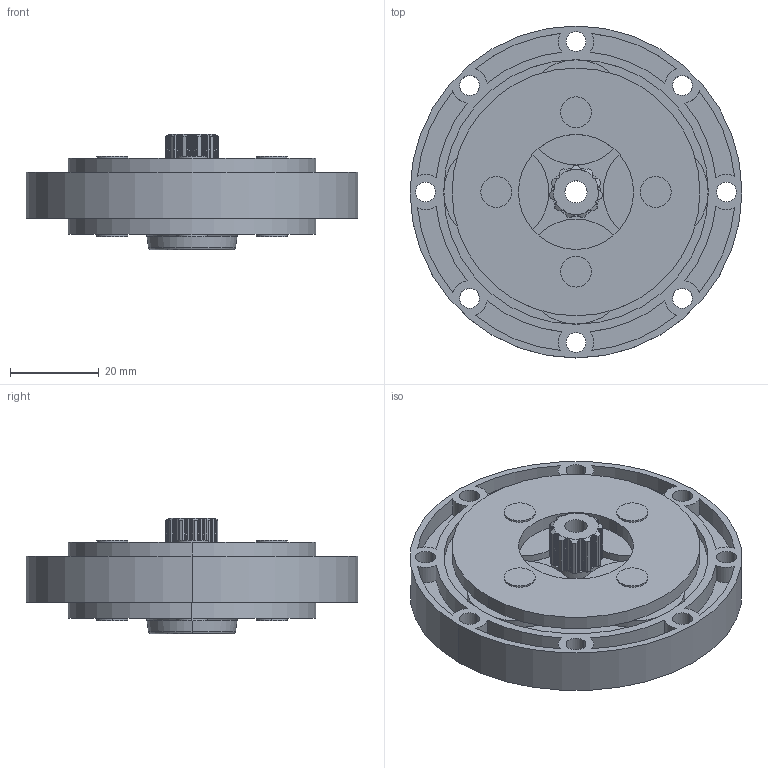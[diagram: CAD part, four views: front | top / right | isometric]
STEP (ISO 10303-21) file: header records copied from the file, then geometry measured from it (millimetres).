
FILE_DESCRIPTION (( 'STEP AP203' ), '1' );
FILE_NAME ('LGU75-5PLD.step', '2021-07-23T02:26:28', ( '' ), ( '' ), 'SwSTEP 2.0', 'SolidWorks 2021', '' );
FILE_SCHEMA (( 'CONFIG_CONTROL_DESIGN' ));
Length unit declared in the file: millimetre
Products named in the file (1): LGU75-5PLD
Bounding box: 75 x 75 x 26.15 mm (x, y, z)
Volume: 50395.1 mm3; surface area: 28210.7 mm2
Topology: 1 solids, 1 shells, 539 faces, 1465 edges, 968 vertices
Faces by surface type: cylinder 457, plane 64, cone 14, torus 4
Entity records: 17741 total; most frequent: DIRECTION 3326, CARTESIAN_POINT 3309, ORIENTED_EDGE 2930, EDGE_CURVE 1465, AXIS2_PLACEMENT_3D 1433, VERTEX_POINT 968, CIRCLE 893, EDGE_LOOP 613
